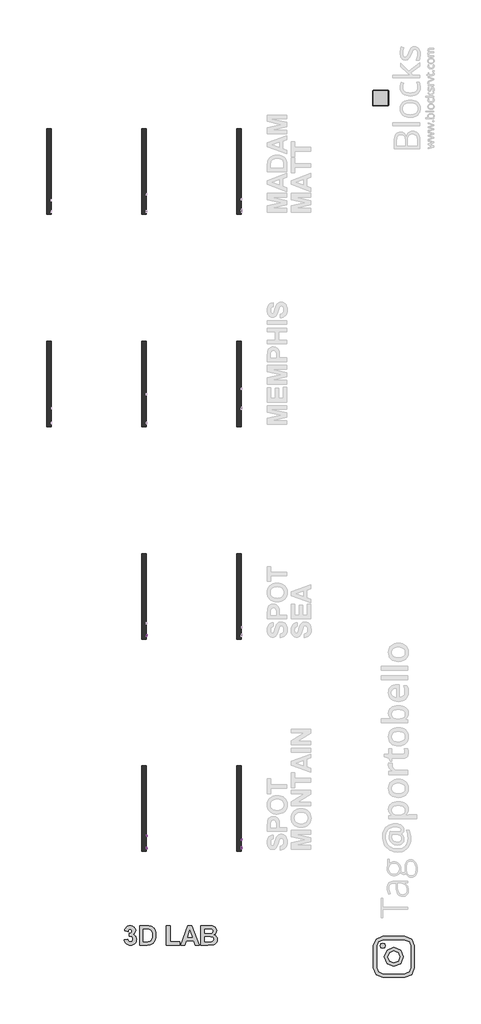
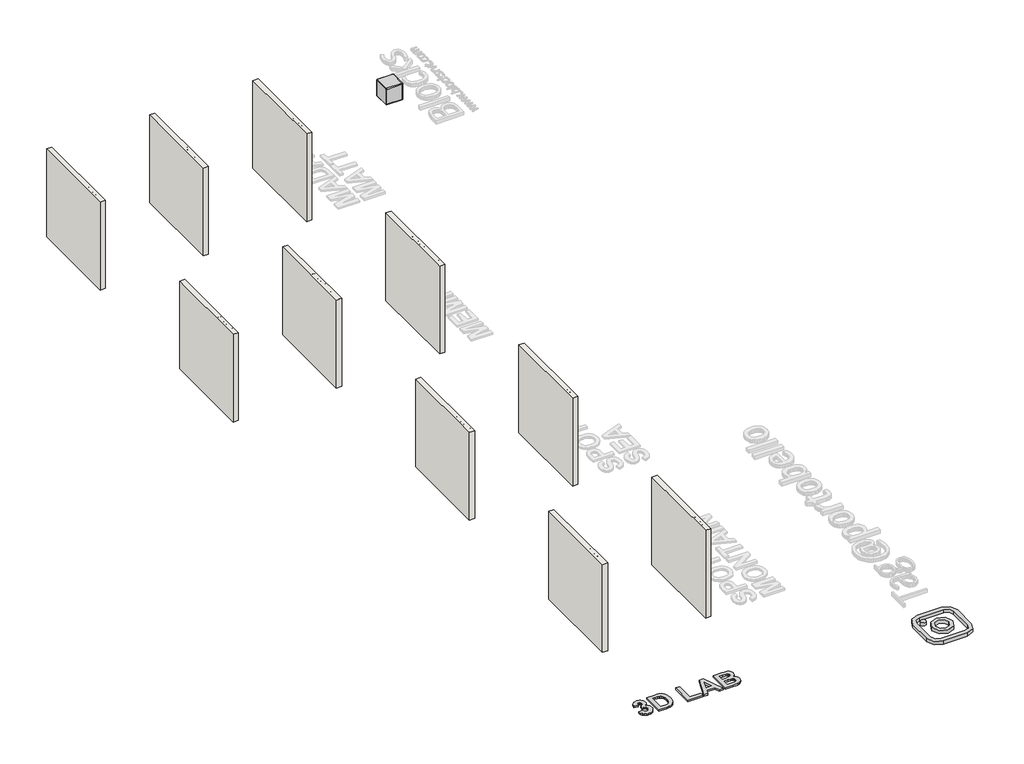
# One storey, part 1 of 7: 10 walls, 7 proxies, 1 furniture element.
"""IFC4 building model written with IfcOpenShell, lengths in millimetres."""

from ifc_helpers import new_model, si_unit, frame, origin, origin_with_axes, place, context, project, spatial, polyline, outline, extrude, transform, mapped, element, save
from components import generic_models_d67f6705, branco_22256ad2

model = new_model("IFC4")

# Units and contexts
model_context = context("Model", 3, world=origin())
ifc_project = project(units=[si_unit("LENGTHUNIT", "METRE", prefix="MILLI")], contexts=[model_context])

# Site, building, storey
site = spatial("IfcSite", under=ifc_project)
building = spatial("IfcBuilding", under=site)
storey = spatial("IfcBuildingStorey", under=building, Name="PORTOBELLO - SHOWROOM", Elevation=0.0)

# Proxies
placement = place(None, origin())
generic_models_shape = generic_models_d67f6705(model_context)
element("IfcBuildingElementProxy", 1, Name="Blks_Instagram1 : Único 2", ObjectType="Blks_Instagram1 : Único 2", at=placement, inside=storey, context=model_context, shape_type="MappedRepresentation", body=[
    mapped(generic_models_shape, transform((45386.5308036, -13051.2061422, 0.0), x_axis=(-1.0, 0.0, 0.0), y_axis=(0.0, -1.0, 0.0), z_axis=(0.0, 0.0, 1.0))),
])
element("IfcBuildingElementProxy", 2, Name="10mm Arial", ObjectType="10mm Arial", at=placement, inside=storey, context=model_context, shape_type="SweptSolid", body=[
    extrude(outline(polyline([(-9575.3888052, 2589.5177386), (-9562.8317665, 2586.2803771), (-9568.6259079, 2571.6478707), (-9577.7187245, 2560.9578331), (-9589.6626266, 2554.4187306), (-9604.0100244, 2552.2390298), (-9618.5750858, 2553.8883674), (-9630.1419088, 2558.8363802), (-9639.0078649, 2566.91139), (-9645.4703253, 2577.9417185), (-9650.7310378, 2604.7971042), (-9649.2441814, 2619.4449389), (-9644.7836122, 2632.0939482), (-9637.5823222, 2642.3425274), (-9627.8733032, 2649.7890722), (-9616.3585968, 2654.3232178), (-9603.7402443, 2655.8345996), (-9589.9722606, 2653.8786937), (-9578.5893786, 2648.0109759), (-9569.9472174, 2638.5931968), (-9564.4013963, 2625.9871071), (-9576.9584351, 2622.9950002), (-9587.2591309, 2638.4337812), (-9604.2307536, 2643.2775609), (-9623.8756522, 2637.9064837), (-9634.9734257, 2623.4855095), (-9638.1739991, 2604.8216296), (-9634.3848145, 2583.1901683), (-9622.5880652, 2569.370068), (-9605.2608232, 2564.7960685), (-9594.7792521, 2566.3534357), (-9586.0451204, 2571.025537), (-9579.4508356, 2578.7633216), (-9575.3888052, 2589.5177386)])), frame((40576.625413, 0.0, 0.0), z_axis=(1.0, 0.0, 0.0), x_axis=(0.0, 1.0, 0.0)), (0.0, 0.0, 1.0), 20.0),
    extrude(outline(polyline([(-9547.135468, 2553.8086596), (-9547.135468, 2627.5812624), (-9536.1480591, 2627.5812624), (-9536.1480591, 2616.6674299), (-9528.3489608, 2626.7228711), (-9520.5008115, 2629.1508922), (-9507.8947218, 2625.2758686), (-9512.0885766, 2614.0186795), (-9520.9177445, 2616.5938535), (-9528.017867, 2614.1167814), (-9532.5428155, 2607.2496508), (-9534.5784292, 2592.5834219), (-9534.5784292, 2553.8086596), (-9547.135468, 2553.8086596)])), frame((40576.625413, 0.0, 0.0), z_axis=(1.0, 0.0, 0.0), x_axis=(0.0, 1.0, 0.0)), (0.0, 0.0, 1.0), 20.0),
    extrude(outline(polyline([(-9452.9576772, 2553.8086596), (-9452.9576772, 2566.4883257), (-9462.7923892, 2555.8013538), (-9475.6192081, 2552.2390298), (-9487.4282202, 2554.7406273), (-9495.570675, 2561.0191467), (-9499.3108086, 2570.2652475), (-9500.0465726, 2581.9393695), (-9500.0465726, 2627.5812624), (-9487.4895338, 2627.5812624), (-9487.4895338, 2587.8500069), (-9486.7292444, 2575.0477135), (-9481.7628375, 2567.530658), (-9472.406372, 2564.7960685), (-9461.9217352, 2567.5919717), (-9454.9932909, 2575.207129), (-9452.9576772, 2589.1989076), (-9452.9576772, 2627.5812624), (-9440.4006385, 2627.5812624), (-9440.4006385, 2553.8086596), (-9452.9576772, 2553.8086596)])), frame((40576.625413, 0.0, 0.0), z_axis=(1.0, 0.0, 0.0), x_axis=(0.0, 1.0, 0.0)), (0.0, 0.0, 1.0), 20.0),
])
element("IfcBuildingElementProxy", 3, Name="10mm Arial", ObjectType="10mm Arial", at=placement, inside=storey, context=model_context, shape_type="SweptSolid", body=[
    extrude(outline(polyline([(-9653.8702975, 2553.8086596), (-9653.8702975, 2566.8316823), (-9602.4894455, 2629.7395034), (-9592.7283099, 2641.707931), (-9647.5917781, 2641.707931), (-9647.5917781, 2654.2649698), (-9576.9584351, 2654.2649698), (-9576.9584351, 2641.707931), (-9633.1953294, 2572.864947), (-9638.4928301, 2566.3656984), (-9575.3888052, 2566.3656984), (-9575.3888052, 2553.8086596), (-9653.8702975, 2553.8086596)])), frame((37576.625413, 0.0, 0.0), z_axis=(1.0, 0.0, 0.0), x_axis=(0.0, 1.0, 0.0)), (0.0, 0.0, 1.0), 20.0),
    extrude(outline(polyline([(37596.625413, -9550.2747277), (37596.625413, -9562.8317665), (37576.625413, -9562.8317665), (37576.625413, -9550.2747277), (37596.625413, -9550.2747277)])), frame((0.0, 0.0, 2553.8086596), z_axis=(0.0, 0.0, 1.0), x_axis=(1.0, 0.0, 0.0)), (0.0, 0.0, 1.0), 73.7726028),
    extrude(outline(polyline([(37596.625413, -9550.2747277), (37596.625413, -9562.8317665), (37576.625413, -9562.8317665), (37576.625413, -9550.2747277), (37596.625413, -9550.2747277)])), frame((0.0, 0.0, 2641.707931), z_axis=(0.0, 0.0, 1.0), x_axis=(1.0, 0.0, 0.0)), (0.0, 0.0, 1.0), 12.5570388),
    extrude(outline(polyline([(-9531.4391695, 2553.8086596), (-9531.4391695, 2627.5812624), (-9518.8821308, 2627.5812624), (-9518.8821308, 2617.2805665), (-9509.2804107, 2626.1833108), (-9496.1715489, 2629.1508922), (-9484.313486, 2626.7596593), (-9476.2200821, 2620.4811399), (-9472.455423, 2611.2473018), (-9471.7932354, 2599.107196), (-9471.7932354, 2553.8086596), (-9484.3502742, 2553.8086596), (-9484.3502742, 2597.4149388), (-9485.7972767, 2608.524975), (-9490.9108364, 2614.3988242), (-9499.5315378, 2616.5938535), (-9513.1554344, 2611.6642347), (-9517.4504567, 2604.5211927), (-9518.8821308, 2592.9513039), (-9518.8821308, 2553.8086596), (-9531.4391695, 2553.8086596)])), frame((37576.625413, 0.0, 0.0), z_axis=(1.0, 0.0, 0.0), x_axis=(0.0, 1.0, 0.0)), (0.0, 0.0, 1.0), 20.0),
    extrude(outline(polyline([(-9407.4384117, 2580.492367), (-9394.8813729, 2578.9227372), (-9398.3823832, 2567.7544529), (-9404.9613396, 2559.3146268), (-9413.9989739, 2554.007929), (-9424.8760183, 2552.2390298), (-9438.2332004, 2554.7069048), (-9448.6779834, 2562.11053), (-9455.4194209, 2574.1249428), (-9457.6665668, 2590.4251809), (-9453.8283313, 2611.28409), (-9442.1296838, 2624.6872574), (-9425.0476965, 2629.1508922), (-9414.4373667, 2627.6180506), (-9405.954621, 2623.0195257), (-9399.8692396, 2615.6005721), (-9396.4510028, 2605.6064445), (-9409.0080415, 2604.0368147), (-9414.8328398, 2613.442331), (-9424.9495947, 2616.5938535), (-9433.0644583, 2615.0426177), (-9439.5054589, 2610.3889105), (-9443.7085107, 2602.3813457), (-9445.109528, 2590.7685374), (-9443.7391676, 2578.9993792), (-9439.6280863, 2570.9642233), (-9433.3035816, 2566.3381072), (-9425.2929512, 2564.7960685), (-9413.4594137, 2568.6465668), (-9407.4384117, 2580.492367)])), frame((37576.625413, 0.0, 0.0), z_axis=(1.0, 0.0, 0.0), x_axis=(0.0, 1.0, 0.0)), (0.0, 0.0, 1.0), 20.0),
    extrude(outline(polyline([(-9387.0332237, 2590.694961), (-9384.3170283, 2608.4820555), (-9376.1684421, 2620.9839119), (-9366.1007382, 2627.1091472), (-9354.0464715, 2629.1508922), (-9340.8548362, 2626.6646231), (-9330.3180828, 2619.2058156), (-9323.4110983, 2607.3630811), (-9321.1087702, 2591.7250306), (-9325.1799976, 2569.3823308), (-9337.0380605, 2556.7394529), (-9354.0464715, 2552.2390298), (-9367.3975222, 2554.7161019), (-9377.9220129, 2562.1473182), (-9384.755421, 2574.2383731), (-9387.0332237, 2590.694961)]), holes=[polyline([(-9374.4761849, 2590.7194865), (-9373.023051, 2579.3549985), (-9368.6636494, 2571.2585289), (-9362.1030872, 2566.4116836), (-9354.0464715, 2564.7960685), (-9346.026644, 2566.4208807), (-9339.4783445, 2571.2953171), (-9335.1189428, 2579.4990856), (-9333.6658089, 2591.1118939), (-9335.1281399, 2602.1452881), (-9339.5151326, 2610.1313931), (-9346.0726292, 2614.9782384), (-9354.0464715, 2616.5938535), (-9362.1030872, 2614.9843697), (-9368.6636494, 2610.1559186), (-9373.023051, 2602.0778431), (-9374.4761849, 2590.7194865)])]), frame((37576.625413, 0.0, 0.0), z_axis=(1.0, 0.0, 0.0), x_axis=(0.0, 1.0, 0.0)), (0.0, 0.0, 1.0), 20.0),
])
element("IfcBuildingElementProxy", 4, Name="10mm Arial", ObjectType="10mm Arial", at=placement, inside=storey, context=model_context, shape_type="SweptSolid", body=[
    extrude(outline(polyline([(-2953.8702975, 2553.8086596), (-2953.8702975, 2566.8316823), (-2902.4894455, 2629.7395034), (-2892.7283099, 2641.707931), (-2947.5917781, 2641.707931), (-2947.5917781, 2654.2649698), (-2876.9584351, 2654.2649698), (-2876.9584351, 2641.707931), (-2933.1953294, 2572.864947), (-2938.4928301, 2566.3656984), (-2875.3888052, 2566.3656984), (-2875.3888052, 2553.8086596), (-2953.8702975, 2553.8086596)])), frame((37576.625413, 0.0, 0.0), z_axis=(1.0, 0.0, 0.0), x_axis=(0.0, 1.0, 0.0)), (0.0, 0.0, 1.0), 20.0),
    extrude(outline(polyline([(37596.625413, -2850.2747277), (37596.625413, -2862.8317665), (37576.625413, -2862.8317665), (37576.625413, -2850.2747277), (37596.625413, -2850.2747277)])), frame((0.0, 0.0, 2553.8086596), z_axis=(0.0, 0.0, 1.0), x_axis=(1.0, 0.0, 0.0)), (0.0, 0.0, 1.0), 73.7726028),
    extrude(outline(polyline([(37596.625413, -2850.2747277), (37596.625413, -2862.8317665), (37576.625413, -2862.8317665), (37576.625413, -2850.2747277), (37596.625413, -2850.2747277)])), frame((0.0, 0.0, 2641.707931), z_axis=(0.0, 0.0, 1.0), x_axis=(1.0, 0.0, 0.0)), (0.0, 0.0, 1.0), 12.5570388),
    extrude(outline(polyline([(-2831.4391695, 2553.8086596), (-2831.4391695, 2627.5812624), (-2818.8821308, 2627.5812624), (-2818.8821308, 2617.2805665), (-2809.2804107, 2626.1833108), (-2796.1715489, 2629.1508922), (-2784.313486, 2626.7596593), (-2776.2200821, 2620.4811399), (-2772.455423, 2611.2473018), (-2771.7932354, 2599.107196), (-2771.7932354, 2553.8086596), (-2784.3502742, 2553.8086596), (-2784.3502742, 2597.4149388), (-2785.7972767, 2608.524975), (-2790.9108364, 2614.3988242), (-2799.5315378, 2616.5938535), (-2813.1554344, 2611.6642347), (-2817.4504567, 2604.5211927), (-2818.8821308, 2592.9513039), (-2818.8821308, 2553.8086596), (-2831.4391695, 2553.8086596)])), frame((37576.625413, 0.0, 0.0), z_axis=(1.0, 0.0, 0.0), x_axis=(0.0, 1.0, 0.0)), (0.0, 0.0, 1.0), 20.0),
    extrude(outline(polyline([(-2707.4384117, 2580.492367), (-2694.8813729, 2578.9227372), (-2698.3823832, 2567.7544529), (-2704.9613396, 2559.3146268), (-2713.9989739, 2554.007929), (-2724.8760183, 2552.2390298), (-2738.2332004, 2554.7069048), (-2748.6779834, 2562.11053), (-2755.4194209, 2574.1249428), (-2757.6665668, 2590.4251809), (-2753.8283313, 2611.28409), (-2742.1296838, 2624.6872574), (-2725.0476965, 2629.1508922), (-2714.4373667, 2627.6180506), (-2705.954621, 2623.0195257), (-2699.8692396, 2615.6005721), (-2696.4510028, 2605.6064445), (-2709.0080415, 2604.0368147), (-2714.8328398, 2613.442331), (-2724.9495947, 2616.5938535), (-2733.0644583, 2615.0426177), (-2739.5054589, 2610.3889105), (-2743.7085107, 2602.3813457), (-2745.109528, 2590.7685374), (-2743.7391676, 2578.9993792), (-2739.6280863, 2570.9642233), (-2733.3035816, 2566.3381072), (-2725.2929512, 2564.7960685), (-2713.4594137, 2568.6465668), (-2707.4384117, 2580.492367)])), frame((37576.625413, 0.0, 0.0), z_axis=(1.0, 0.0, 0.0), x_axis=(0.0, 1.0, 0.0)), (0.0, 0.0, 1.0), 20.0),
    extrude(outline(polyline([(-2687.0332237, 2590.694961), (-2684.3170283, 2608.4820555), (-2676.1684421, 2620.9839119), (-2666.1007382, 2627.1091472), (-2654.0464715, 2629.1508922), (-2640.8548362, 2626.6646231), (-2630.3180828, 2619.2058156), (-2623.4110983, 2607.3630811), (-2621.1087702, 2591.7250306), (-2625.1799976, 2569.3823308), (-2637.0380605, 2556.7394529), (-2654.0464715, 2552.2390298), (-2667.3975222, 2554.7161019), (-2677.9220129, 2562.1473182), (-2684.755421, 2574.2383731), (-2687.0332237, 2590.694961)]), holes=[polyline([(-2674.4761849, 2590.7194865), (-2673.023051, 2579.3549985), (-2668.6636494, 2571.2585289), (-2662.1030872, 2566.4116836), (-2654.0464715, 2564.7960685), (-2646.026644, 2566.4208807), (-2639.4783445, 2571.2953171), (-2635.1189428, 2579.4990856), (-2633.6658089, 2591.1118939), (-2635.1281399, 2602.1452881), (-2639.5151326, 2610.1313931), (-2646.0726292, 2614.9782384), (-2654.0464715, 2616.5938535), (-2662.1030872, 2614.9843697), (-2668.6636494, 2610.1559186), (-2673.023051, 2602.0778431), (-2674.4761849, 2590.7194865)])]), frame((37576.625413, 0.0, 0.0), z_axis=(1.0, 0.0, 0.0), x_axis=(0.0, 1.0, 0.0)), (0.0, 0.0, 1.0), 20.0),
])
element("IfcBuildingElementProxy", 5, Name="10mm Arial Narrow", ObjectType="10mm Arial Narrow", at=placement, inside=storey, context=model_context, shape_type="SweptSolid", body=[
    extrude(outline(polyline([(-9383.7082487, 2553.8086596), (-9383.7082487, 2654.5272634), (-9352.411364, 2654.5272634), (-9336.1156625, 2652.6489426), (-9324.6426764, 2643.1684995), (-9320.3529979, 2626.1493906), (-9322.1393063, 2614.0735651), (-9327.4982315, 2604.4471713), (-9337.2420203, 2598.1459129), (-9352.1829196, 2596.0454935), (-9373.961287, 2596.0454935), (-9373.961287, 2553.8086596), (-9383.7082487, 2553.8086596)]), holes=[polyline([(-9373.961287, 2607.4169487), (-9350.9899321, 2607.4169487), (-9335.1257367, 2611.9477629), (-9330.0999596, 2625.6163537), (-9332.5747741, 2635.7821301), (-9338.5524029, 2641.5820799), (-9351.2183765, 2643.1558081), (-9373.961287, 2643.1558081), (-9373.961287, 2607.4169487)])]), frame((40576.625413, 0.0, 0.0), z_axis=(1.0, 0.0, 0.0), x_axis=(0.0, 1.0, 0.0)), (0.0, 0.0, 1.0), 20.0),
    extrude(outline(polyline([(-9312.2305299, 2590.3597658), (-9310.276061, 2606.9505414), (-9304.4126544, 2618.9026262), (-9295.5540877, 2626.1271808), (-9284.6141385, 2628.5353656), (-9273.8011029, 2626.1271808), (-9264.9171535, 2618.9026262), (-9258.9775988, 2607.1409117), (-9256.9977472, 2591.1212472), (-9258.9426975, 2573.9593606), (-9264.7775486, 2561.8169055), (-9273.6265968, 2554.5923509), (-9284.6141385, 2552.184166), (-9295.4747667, 2554.5986966), (-9304.3491976, 2561.8422882), (-9310.2601968, 2573.8007187), (-9312.2305299, 2590.3597658)]), holes=[polyline([(-9302.4835682, 2590.3851485), (-9301.1795314, 2577.8333971), (-9297.2674208, 2568.9621391), (-9291.426224, 2563.6888805), (-9284.3349287, 2561.9311277), (-9277.6148555, 2563.7047447), (-9271.9227822, 2569.0255959), (-9268.0392272, 2577.9127181), (-9266.7447088, 2590.3851485), (-9268.0487457, 2602.8988259), (-9271.9608563, 2611.7573926), (-9277.802053, 2617.0306511), (-9284.8933484, 2618.788404), (-9291.6610141, 2617.0211326), (-9297.3435689, 2611.7193185), (-9301.1985684, 2602.8512333), (-9302.4835682, 2590.3851485)])]), frame((40576.625413, 0.0, 0.0), z_axis=(1.0, 0.0, 0.0), x_axis=(0.0, 1.0, 0.0)), (0.0, 0.0, 1.0), 20.0),
    extrude(outline(polyline([(-9185.5200284, 2561.9311277), (-9183.8955348, 2552.184166), (-9191.2565214, 2552.184166), (-9199.5312858, 2554.3036225), (-9203.8463469, 2560.1035724), (-9205.0139517, 2574.7493976), (-9205.0139517, 2617.1639104), (-9213.1364197, 2617.1639104), (-9213.1364197, 2620.4128976), (-9214.7609133, 2615.5394168), (-9222.3249617, 2617.1639104), (-9228.4041214, 2614.8413922), (-9232.2749851, 2608.3561091), (-9234.2548366, 2592.9488025), (-9234.2548366, 2553.8086596), (-9244.0017983, 2553.8086596), (-9244.0017983, 2626.910872), (-9234.2548366, 2626.910872), (-9234.2548366, 2617.2146758), (-9228.0106893, 2626.3016869), (-9221.6142458, 2628.5353656), (-9213.1364197, 2626.910872), (-9205.0139517, 2626.910872), (-9205.0139517, 2643.1558081), (-9195.26699, 2651.2782762), (-9195.26699, 2626.910872), (-9185.5200284, 2626.910872), (-9185.5200284, 2617.1639104), (-9195.26699, 2617.1639104), (-9195.26699, 2572.5157188), (-9194.4039778, 2564.5201644), (-9189.7843241, 2561.9311277), (-9185.5200284, 2561.9311277)])), frame((40576.625413, 0.0, 0.0), z_axis=(1.0, 0.0, 0.0), x_axis=(0.0, 1.0, 0.0)), (0.0, 0.0, 1.0), 20.0),
    extrude(outline(polyline([(-9179.0220539, 2590.3597658), (-9177.0675851, 2606.9505414), (-9171.2041785, 2618.9026262), (-9162.3456117, 2626.1271808), (-9151.4056626, 2628.5353656), (-9140.592627, 2626.1271808), (-9131.7086776, 2618.9026262), (-9125.7691228, 2607.1409117), (-9123.7892712, 2591.1212472), (-9125.7342216, 2573.9593606), (-9131.5690727, 2561.8169055), (-9140.4181209, 2554.5923509), (-9151.4056626, 2552.184166), (-9162.2662908, 2554.5986966), (-9171.1407217, 2561.8422882), (-9177.0517209, 2573.8007187), (-9179.0220539, 2590.3597658)]), holes=[polyline([(-9169.2750923, 2590.3851485), (-9167.9710554, 2577.8333971), (-9164.0589448, 2568.9621391), (-9158.2177481, 2563.6888805), (-9151.1264528, 2561.9311277), (-9144.4063796, 2563.7047447), (-9138.7143063, 2569.0255959), (-9134.8307512, 2577.9127181), (-9133.5362329, 2590.3851485), (-9134.8402698, 2602.8988259), (-9138.7523803, 2611.7573926), (-9144.5935771, 2617.0306511), (-9151.6848724, 2618.788404), (-9158.4525382, 2617.0211326), (-9164.135093, 2611.7193185), (-9167.9900925, 2602.8512333), (-9169.2750923, 2590.3851485)])]), frame((40576.625413, 0.0, 0.0), z_axis=(1.0, 0.0, 0.0), x_axis=(0.0, 1.0, 0.0)), (0.0, 0.0, 1.0), 20.0),
    extrude(outline(polyline([(-9101.0463607, 2553.8086596), (-9110.7933224, 2553.8086596), (-9110.7933224, 2654.5272634), (-9101.0463607, 2654.5272634), (-9101.0463607, 2619.1183792), (-9093.6473, 2626.2001561), (-9084.4460667, 2628.5353656), (-9071.56434, 2624.3345267), (-9062.2869585, 2611.6050963), (-9058.8095269, 2590.9181855), (-9060.7417859, 2574.463842), (-9066.5385629, 2562.2611029), (-9074.9116852, 2554.7034002), (-9084.5729802, 2552.184166), (-9093.9138185, 2554.7985854), (-9101.0463607, 2562.5656955), (-9101.0463607, 2553.8086596)]), holes=[polyline([(-9101.0463607, 2590.9181855), (-9098.9649783, 2573.6706323), (-9093.0761889, 2564.9389791), (-9084.6237456, 2561.9311277), (-9078.681018, 2563.7206089), (-9073.4426607, 2569.0890526), (-9068.5564885, 2590.5120621), (-9073.2649817, 2611.9477629), (-9078.5096847, 2617.0782437), (-9084.8268073, 2618.788404), (-9090.8044362, 2616.9989227), (-9096.0967318, 2611.630479), (-9101.0463607, 2590.9181855)])]), frame((40576.625413, 0.0, 0.0), z_axis=(1.0, 0.0, 0.0), x_axis=(0.0, 1.0, 0.0)), (0.0, 0.0, 1.0), 20.0),
    extrude(outline(polyline([(-9006.8257314, 2576.5515701), (-8997.0787697, 2574.9270765), (-9000.7783001, 2565.04051), (-9006.597287, 2557.9206591), (-9014.3009403, 2553.6182893), (-9023.6544699, 2552.184166), (-9035.2480239, 2554.5986966), (-9044.3921461, 2561.8422882), (-9050.3317009, 2573.6484224), (-9052.3115525, 2589.7505807), (-9050.3221823, 2606.4175044), (-9044.354072, 2618.5980336), (-9035.3400362, 2626.0510326), (-9024.2128896, 2628.5353656), (-9013.5299404, 2626.1366993), (-9004.782423, 2618.9407003), (-8998.947572, 2607.2011957), (-8997.0026216, 2591.1720126), (-8997.0787697, 2587.9230254), (-9042.5645908, 2587.9230254), (-9036.5615793, 2568.4798675), (-9030.631543, 2563.5683126), (-9023.5275563, 2561.9311277), (-9013.3490885, 2565.5862383), (-9006.8257314, 2576.5515701)]), holes=[polyline([(-9041.9046403, 2597.6699871), (-9006.8257314, 2597.6699871), (-9011.0900271, 2611.9350716), (-9016.9153597, 2617.0750709), (-9024.1367414, 2618.788404), (-9036.3458262, 2613.0772936), (-9041.9046403, 2597.6699871)])]), frame((40576.625413, 0.0, 0.0), z_axis=(1.0, 0.0, 0.0), x_axis=(0.0, 1.0, 0.0)), (0.0, 0.0, 1.0), 20.0),
    extrude(outline(polyline([(40596.625413, -8974.3358592), (40596.625413, -8984.0828209), (40576.625413, -8984.0828209), (40576.625413, -8974.3358592), (40596.625413, -8974.3358592)])), frame((0.0, 0.0, 2553.8086596), z_axis=(0.0, 0.0, 1.0), x_axis=(1.0, 0.0, 0.0)), (0.0, 0.0, 1.0), 100.7186038),
    extrude(outline(polyline([(40596.625413, -8948.3439615), (40596.625413, -8958.0909231), (40576.625413, -8958.0909231), (40576.625413, -8948.3439615), (40596.625413, -8948.3439615)])), frame((0.0, 0.0, 2553.8086596), z_axis=(0.0, 0.0, 1.0), x_axis=(1.0, 0.0, 0.0)), (0.0, 0.0, 1.0), 100.7186038),
    extrude(outline(polyline([(-8936.9725062, 2590.3597658), (-8935.0180373, 2606.9505414), (-8929.1546307, 2618.9026262), (-8920.296064, 2626.1271808), (-8909.3561149, 2628.5353656), (-8898.5430793, 2626.1271808), (-8889.6591299, 2618.9026262), (-8883.7195751, 2607.1409117), (-8881.7397235, 2591.1212472), (-8883.6846739, 2573.9593606), (-8889.5195249, 2561.8169055), (-8898.3685731, 2554.5923509), (-8909.3561149, 2552.184166), (-8920.216743, 2554.5986966), (-8929.0911739, 2561.8422882), (-8935.0021731, 2573.8007187), (-8936.9725062, 2590.3597658)]), holes=[polyline([(-8927.2255446, 2590.3851485), (-8925.9215077, 2577.8333971), (-8922.0093971, 2568.9621391), (-8916.1682004, 2563.6888805), (-8909.076905, 2561.9311277), (-8902.3568319, 2563.7047447), (-8896.6647585, 2569.0255959), (-8892.7812035, 2577.9127181), (-8891.4866852, 2590.3851485), (-8892.790722, 2602.8988259), (-8896.7028326, 2611.7573926), (-8902.5440294, 2617.0306511), (-8909.6353247, 2618.788404), (-8916.4029905, 2617.0211326), (-8922.0855453, 2611.7193185), (-8925.9405447, 2602.8512333), (-8927.2255446, 2590.3851485)])]), frame((40576.625413, 0.0, 0.0), z_axis=(1.0, 0.0, 0.0), x_axis=(0.0, 1.0, 0.0)), (0.0, 0.0, 1.0), 20.0),
])
element("IfcBuildingElementProxy", 6, Name="10mm Arial Narrow", ObjectType="10mm Arial Narrow", at=placement, inside=storey, context=model_context, shape_type="SweptSolid", body=[
    extrude(outline(polyline([(-9263.7082487, 2553.8086596), (-9263.7082487, 2654.5272634), (-9232.411364, 2654.5272634), (-9216.1156625, 2652.6489426), (-9204.6426764, 2643.1684995), (-9200.3529979, 2626.1493906), (-9202.1393063, 2614.0735651), (-9207.4982315, 2604.4471713), (-9217.2420203, 2598.1459129), (-9232.1829196, 2596.0454935), (-9253.961287, 2596.0454935), (-9253.961287, 2553.8086596), (-9263.7082487, 2553.8086596)]), holes=[polyline([(-9253.961287, 2607.4169487), (-9230.9899321, 2607.4169487), (-9215.1257367, 2611.9477629), (-9210.0999596, 2625.6163537), (-9212.5747741, 2635.7821301), (-9218.5524029, 2641.5820799), (-9231.2183765, 2643.1558081), (-9253.961287, 2643.1558081), (-9253.961287, 2607.4169487)])]), frame((37576.625413, 0.0, 0.0), z_axis=(1.0, 0.0, 0.0), x_axis=(0.0, 1.0, 0.0)), (0.0, 0.0, 1.0), 20.0),
    extrude(outline(polyline([(-9192.2305299, 2590.3597658), (-9190.276061, 2606.9505414), (-9184.4126544, 2618.9026262), (-9175.5540877, 2626.1271808), (-9164.6141385, 2628.5353656), (-9153.8011029, 2626.1271808), (-9144.9171535, 2618.9026262), (-9138.9775988, 2607.1409117), (-9136.9977472, 2591.1212472), (-9138.9426975, 2573.9593606), (-9144.7775486, 2561.8169055), (-9153.6265968, 2554.5923509), (-9164.6141385, 2552.184166), (-9175.4747667, 2554.5986966), (-9184.3491976, 2561.8422882), (-9190.2601968, 2573.8007187), (-9192.2305299, 2590.3597658)]), holes=[polyline([(-9182.4835682, 2590.3851485), (-9181.1795314, 2577.8333971), (-9177.2674208, 2568.9621391), (-9171.426224, 2563.6888805), (-9164.3349287, 2561.9311277), (-9157.6148555, 2563.7047447), (-9151.9227822, 2569.0255959), (-9148.0392272, 2577.9127181), (-9146.7447088, 2590.3851485), (-9148.0487457, 2602.8988259), (-9151.9608563, 2611.7573926), (-9157.802053, 2617.0306511), (-9164.8933484, 2618.788404), (-9171.6610141, 2617.0211326), (-9177.3435689, 2611.7193185), (-9181.1985684, 2602.8512333), (-9182.4835682, 2590.3851485)])]), frame((37576.625413, 0.0, 0.0), z_axis=(1.0, 0.0, 0.0), x_axis=(0.0, 1.0, 0.0)), (0.0, 0.0, 1.0), 20.0),
    extrude(outline(polyline([(-9065.5200284, 2561.9311277), (-9063.8955348, 2552.184166), (-9071.2565214, 2552.184166), (-9079.5312858, 2554.3036225), (-9083.8463469, 2560.1035724), (-9085.0139517, 2574.7493976), (-9085.0139517, 2617.1639104), (-9093.1364197, 2617.1639104), (-9093.1364197, 2620.4128976), (-9094.7609133, 2615.5394168), (-9102.3249617, 2617.1639104), (-9108.4041214, 2614.8413922), (-9112.2749851, 2608.3561091), (-9114.2548366, 2592.9488025), (-9114.2548366, 2553.8086596), (-9124.0017983, 2553.8086596), (-9124.0017983, 2626.910872), (-9114.2548366, 2626.910872), (-9114.2548366, 2617.2146758), (-9108.0106893, 2626.3016869), (-9101.6142458, 2628.5353656), (-9093.1364197, 2626.910872), (-9085.0139517, 2626.910872), (-9085.0139517, 2643.1558081), (-9075.26699, 2651.2782762), (-9075.26699, 2626.910872), (-9065.5200284, 2626.910872), (-9065.5200284, 2617.1639104), (-9075.26699, 2617.1639104), (-9075.26699, 2572.5157188), (-9074.4039778, 2564.5201644), (-9069.7843241, 2561.9311277), (-9065.5200284, 2561.9311277)])), frame((37576.625413, 0.0, 0.0), z_axis=(1.0, 0.0, 0.0), x_axis=(0.0, 1.0, 0.0)), (0.0, 0.0, 1.0), 20.0),
    extrude(outline(polyline([(-9059.0220539, 2590.3597658), (-9057.0675851, 2606.9505414), (-9051.2041785, 2618.9026262), (-9042.3456117, 2626.1271808), (-9031.4056626, 2628.5353656), (-9020.592627, 2626.1271808), (-9011.7086776, 2618.9026262), (-9005.7691228, 2607.1409117), (-9003.7892712, 2591.1212472), (-9005.7342216, 2573.9593606), (-9011.5690727, 2561.8169055), (-9020.4181209, 2554.5923509), (-9031.4056626, 2552.184166), (-9042.2662908, 2554.5986966), (-9051.1407217, 2561.8422882), (-9057.0517209, 2573.8007187), (-9059.0220539, 2590.3597658)]), holes=[polyline([(-9049.2750923, 2590.3851485), (-9047.9710554, 2577.8333971), (-9044.0589448, 2568.9621391), (-9038.2177481, 2563.6888805), (-9031.1264528, 2561.9311277), (-9024.4063796, 2563.7047447), (-9018.7143063, 2569.0255959), (-9014.8307512, 2577.9127181), (-9013.5362329, 2590.3851485), (-9014.8402698, 2602.8988259), (-9018.7523803, 2611.7573926), (-9024.5935771, 2617.0306511), (-9031.6848724, 2618.788404), (-9038.4525382, 2617.0211326), (-9044.135093, 2611.7193185), (-9047.9900925, 2602.8512333), (-9049.2750923, 2590.3851485)])]), frame((37576.625413, 0.0, 0.0), z_axis=(1.0, 0.0, 0.0), x_axis=(0.0, 1.0, 0.0)), (0.0, 0.0, 1.0), 20.0),
    extrude(outline(polyline([(-8981.0463607, 2553.8086596), (-8990.7933224, 2553.8086596), (-8990.7933224, 2654.5272634), (-8981.0463607, 2654.5272634), (-8981.0463607, 2619.1183792), (-8973.6473, 2626.2001561), (-8964.4460667, 2628.5353656), (-8951.56434, 2624.3345267), (-8942.2869585, 2611.6050963), (-8938.8095269, 2590.9181855), (-8940.7417859, 2574.463842), (-8946.5385629, 2562.2611029), (-8954.9116852, 2554.7034002), (-8964.5729802, 2552.184166), (-8973.9138185, 2554.7985854), (-8981.0463607, 2562.5656955), (-8981.0463607, 2553.8086596)]), holes=[polyline([(-8981.0463607, 2590.9181855), (-8978.9649783, 2573.6706323), (-8973.0761889, 2564.9389791), (-8964.6237456, 2561.9311277), (-8958.681018, 2563.7206089), (-8953.4426607, 2569.0890526), (-8948.5564885, 2590.5120621), (-8953.2649817, 2611.9477629), (-8958.5096847, 2617.0782437), (-8964.8268073, 2618.788404), (-8970.8044362, 2616.9989227), (-8976.0967318, 2611.630479), (-8981.0463607, 2590.9181855)])]), frame((37576.625413, 0.0, 0.0), z_axis=(1.0, 0.0, 0.0), x_axis=(0.0, 1.0, 0.0)), (0.0, 0.0, 1.0), 20.0),
    extrude(outline(polyline([(-8886.8257314, 2576.5515701), (-8877.0787697, 2574.9270765), (-8880.7783001, 2565.04051), (-8886.597287, 2557.9206591), (-8894.3009403, 2553.6182893), (-8903.6544699, 2552.184166), (-8915.2480239, 2554.5986966), (-8924.3921461, 2561.8422882), (-8930.3317009, 2573.6484224), (-8932.3115525, 2589.7505807), (-8930.3221823, 2606.4175044), (-8924.354072, 2618.5980336), (-8915.3400362, 2626.0510326), (-8904.2128896, 2628.5353656), (-8893.5299404, 2626.1366993), (-8884.782423, 2618.9407003), (-8878.947572, 2607.2011957), (-8877.0026216, 2591.1720126), (-8877.0787697, 2587.9230254), (-8922.5645908, 2587.9230254), (-8916.5615793, 2568.4798675), (-8910.631543, 2563.5683126), (-8903.5275563, 2561.9311277), (-8893.3490885, 2565.5862383), (-8886.8257314, 2576.5515701)]), holes=[polyline([(-8921.9046403, 2597.6699871), (-8886.8257314, 2597.6699871), (-8891.0900271, 2611.9350716), (-8896.9153597, 2617.0750709), (-8904.1367414, 2618.788404), (-8916.3458262, 2613.0772936), (-8921.9046403, 2597.6699871)])]), frame((37576.625413, 0.0, 0.0), z_axis=(1.0, 0.0, 0.0), x_axis=(0.0, 1.0, 0.0)), (0.0, 0.0, 1.0), 20.0),
    extrude(outline(polyline([(37596.625413, -8854.3358592), (37596.625413, -8864.0828209), (37576.625413, -8864.0828209), (37576.625413, -8854.3358592), (37596.625413, -8854.3358592)])), frame((0.0, 0.0, 2553.8086596), z_axis=(0.0, 0.0, 1.0), x_axis=(1.0, 0.0, 0.0)), (0.0, 0.0, 1.0), 100.7186038),
    extrude(outline(polyline([(37596.625413, -8828.3439615), (37596.625413, -8838.0909231), (37576.625413, -8838.0909231), (37576.625413, -8828.3439615), (37596.625413, -8828.3439615)])), frame((0.0, 0.0, 2553.8086596), z_axis=(0.0, 0.0, 1.0), x_axis=(1.0, 0.0, 0.0)), (0.0, 0.0, 1.0), 100.7186038),
    extrude(outline(polyline([(-8816.9725062, 2590.3597658), (-8815.0180373, 2606.9505414), (-8809.1546307, 2618.9026262), (-8800.296064, 2626.1271808), (-8789.3561149, 2628.5353656), (-8778.5430793, 2626.1271808), (-8769.6591299, 2618.9026262), (-8763.7195751, 2607.1409117), (-8761.7397235, 2591.1212472), (-8763.6846739, 2573.9593606), (-8769.5195249, 2561.8169055), (-8778.3685731, 2554.5923509), (-8789.3561149, 2552.184166), (-8800.216743, 2554.5986966), (-8809.0911739, 2561.8422882), (-8815.0021731, 2573.8007187), (-8816.9725062, 2590.3597658)]), holes=[polyline([(-8807.2255446, 2590.3851485), (-8805.9215077, 2577.8333971), (-8802.0093971, 2568.9621391), (-8796.1682004, 2563.6888805), (-8789.076905, 2561.9311277), (-8782.3568319, 2563.7047447), (-8776.6647585, 2569.0255959), (-8772.7812035, 2577.9127181), (-8771.4866852, 2590.3851485), (-8772.790722, 2602.8988259), (-8776.7028326, 2611.7573926), (-8782.5440294, 2617.0306511), (-8789.6353247, 2618.788404), (-8796.4029905, 2617.0211326), (-8802.0855453, 2611.7193185), (-8805.9405447, 2602.8512333), (-8807.2255446, 2590.3851485)])]), frame((37576.625413, 0.0, 0.0), z_axis=(1.0, 0.0, 0.0), x_axis=(0.0, 1.0, 0.0)), (0.0, 0.0, 1.0), 20.0),
])
element("IfcBuildingElementProxy", 7, Name="600mm Arial", ObjectType="600mm Arial", at=placement, inside=storey, context=model_context, shape_type="SweptSolid", body=[
    extrude(outline(polyline([(36877.6157239, -12507.8775115), (36994.2167982, -12494.3651474), (37003.2123889, -12531.8657533), (37020.4824048, -12559.3459544), (37044.1290419, -12576.1984534), (37072.2544963, -12581.8159531), (37087.99678, -12580.2075643), (37102.429579, -12575.3823977), (37115.5528933, -12567.3404535), (37127.3667228, -12556.0817316), (37137.1309241, -12542.0996611), (37144.1053536, -12525.8876709), (37149.6848972, -12486.7739316), (37144.5798046, -12449.7667547), (37138.1984388, -12434.479944), (37129.2645268, -12421.3376516), (37106.5857697, -12403.232602), (37093.5526011, -12398.7063396), (37079.3902392, -12397.1975855), (37058.0968789, -12399.361082), (37033.0838229, -12405.8515715), (37043.2560521, -12309.7467798), (37076.448643, -12305.5716111), (37089.7000591, -12299.4417044), (37100.7215555, -12290.616916), (37115.5813604, -12266.9323228), (37120.5346286, -12236.5674597), (37116.833911, -12210.7763041), (37105.7317579, -12190.7924286), (37088.48072, -12177.982252), (37066.333348, -12173.7121931), (37043.8064152, -12178.6654614), (37024.8093977, -12193.5252663), (37010.974407, -12217.912047), (37003.9335544, -12251.4462426), (36887.3324801, -12233.9864464), (36900.6740418, -12181.815816), (36919.4433228, -12141.2977018), (36945.1775443, -12110.3065634), (36979.4139274, -12086.7168604), (37020.1977342, -12071.8001214), (37065.5742264, -12066.827875), (37104.3843171, -12070.2723892), (37139.1331073, -12080.6059317), (37169.8205971, -12097.8285024), (37196.4467864, -12121.9401015), (37214.2481874, -12145.2261559), (37226.9634738, -12169.9924974), (37234.5926456, -12196.2391259), (37237.1357029, -12223.9660415), (37231.6795166, -12262.2352581), (37215.3109576, -12296.4241961), (37188.0300259, -12326.5328557), (37149.8367215, -12352.5612367), (37175.0016018, -12359.9009935), (37197.5095566, -12370.6852644), (37217.3605858, -12384.9140495), (37234.5546896, -12402.5873487), (37248.4371254, -12423.0029746), (37258.353151, -12445.4587398), (37264.3027664, -12469.9546442), (37266.2859715, -12496.4906878), (37262.7702897, -12534.8785171), (37252.2232443, -12570.3342392), (37234.6448353, -12602.8578543), (37210.0350626, -12632.4493623), (37180.1873511, -12657.0591349), (37146.8951254, -12674.637544), (37110.1583856, -12685.1845894), (37069.9771316, -12688.7002712), (37031.9688631, -12685.5736392), (36997.3481747, -12676.1937432), (36966.1150663, -12660.5605832), (36938.2695379, -12638.6741592), (36914.8648708, -12611.7395768), (36896.9543461, -12580.9619413), (36884.5379638, -12546.3412529), (36877.6157239, -12507.8775115)])), origin_with_axes(), (0.0, 0.0, 1.0), 50.0),
    extrude(outline(polyline([(37363.4535334, -12066.827875), (37590.1272364, -12066.827875), (37657.6890568, -12069.7504931), (37707.0319593, -12078.5183473), (37733.0888074, -12088.0216006), (37757.2098956, -12100.5898072), (37779.3952237, -12116.2229672), (37799.6447917, -12134.9210805), (37817.7735639, -12156.2903529), (37833.5965043, -12179.9369901), (37858.3248897, -12234.0623585), (37867.1259555, -12265.1151755), (37873.412431, -12299.5935287), (37878.4416115, -12378.8268433), (37873.7350577, -12449.1215014), (37859.6153964, -12509.092106), (37846.8431758, -12540.8993001), (37831.6038101, -12569.5181835), (37813.8972994, -12594.9487564), (37793.7236434, -12617.1910186), (37755.8434767, -12645.0507805), (37706.5764864, -12666.0784482), (37658.6379587, -12675.7572483), (37596.8075063, -12678.983515), (37363.4535334, -12678.983515), (37363.4535334, -12066.827875)]), holes=[polyline([(37480.0546077, -12173.7121931), (37480.0546077, -12572.0991969), (37579.34771, -12572.0991969), (37627.3241937, -12570.6568659), (37659.8145972, -12566.3298729), (37689.4013607, -12556.4423144), (37713.4844927, -12541.354773), (37732.861071, -12517.9928065), (37748.3281731, -12483.2819724), (37758.4624462, -12435.5332251), (37761.8405372, -12373.0575193), (37758.4624462, -12311.4548033), (37748.3281731, -12266.0213769), (37732.1399055, -12232.7718518), (37710.5998307, -12207.7208398), (37683.1006516, -12190.1851313), (37649.0350708, -12179.4815171), (37607.7768131, -12175.1545241), (37539.873388, -12173.7121931), (37480.0546077, -12173.7121931)])]), origin_with_axes(), (0.0, 0.0, 1.0), 50.0),
    extrude(outline(polyline([(38208.8113219, -12678.983515), (38208.8113219, -12066.827875), (38325.4123962, -12066.827875), (38325.4123962, -12572.0991969), (38636.3485943, -12572.0991969), (38636.3485943, -12678.983515), (38208.8113219, -12678.983515)])), origin_with_axes(), (0.0, 0.0, 1.0), 50.0),
    extrude(outline(polyline([(39238.7874781, -12678.983515), (39116.2652555, -12678.983515), (39068.2887718, -12542.9489283), (38837.0603393, -12542.9489283), (38789.6911529, -12678.983515), (38665.4988629, -12678.983515), (38888.9842552, -12066.827875), (39013.1765453, -12066.827875), (39238.7874781, -12678.983515)]), holes=[polyline([(39030.9399902, -12436.0646103), (38952.1431705, -12212.5792179), (38874.409121, -12436.0646103), (39030.9399902, -12436.0646103)])]), origin_with_axes(), (0.0, 0.0, 1.0), 50.0),
    extrude(outline(polyline([(39297.0880152, -12066.827875), (39548.3572573, -12066.827875), (39613.4329545, -12068.3461182), (39659.5685684, -12072.9008476), (39694.2983806, -12082.2949772), (39725.1566727, -12098.3314205), (39751.6689938, -12120.8773313), (39773.3608928, -12149.7998634), (39787.8221589, -12183.8654442), (39792.6425809, -12221.8405011), (39786.892235, -12263.2126271), (39769.6411971, -12301.0927938), (39742.5215788, -12332.7102075), (39707.1654913, -12355.2940744), (39730.9829308, -12364.8400283), (39751.8777522, -12377.232688), (39769.8499556, -12392.4720537), (39784.8995408, -12410.5581253), (39796.7892825, -12430.9310506), (39805.2819552, -12453.0309775), (39810.3775588, -12476.857906), (39812.0760933, -12502.4118361), (39807.1987372, -12543.4233793), (39792.5666688, -12583.2582841), (39769.4893728, -12618.5574374), (39739.276334, -12645.9617264), (39701.5669697, -12664.9207878), (39656.000697, -12674.8842585), (39506.3019219, -12678.983515), (39297.0880152, -12678.983515), (39297.0880152, -12066.827875)]), holes=[polyline([(39413.6890895, -12416.6310979), (39413.6890895, -12572.0991969), (39536.9704337, -12572.0991969), (39628.3686716, -12568.4554133), (39655.3554436, -12560.3138344), (39676.8006282, -12545.3022052), (39690.8064213, -12523.7241744), (39695.475019, -12495.8833905), (39691.8691915, -12471.7433244), (39681.051709, -12451.5506904), (39663.4400884, -12435.7989177), (39639.4518466, -12424.9814352), (39596.333741, -12418.7186822), (39521.3325292, -12416.6310979), (39413.6890895, -12416.6310979)]), polyline([(39413.6890895, -12173.7121931), (39413.6890895, -12309.7467798), (39502.6581384, -12309.7467798), (39601.3439434, -12307.7730637), (39632.410994, -12300.6752769), (39656.0766091, -12286.6694838), (39671.0502823, -12266.4388938), (39676.0415066, -12240.6667162), (39671.7334917, -12216.014243), (39658.8094468, -12196.4099283), (39637.4211964, -12182.6888058), (39607.7205647, -12175.6859092), (39491.7267877, -12173.7121931), (39413.6890895, -12173.7121931)])]), origin_with_axes(), (0.0, 0.0, 1.0), 50.0),
])

# Furniture
branco_shape = branco_22256ad2(model_context)
element("IfcFurniture", 8, ObjectType="Blks_Mob_Blocks Revit_Cubo : Branco", at=placement, inside=storey, context=model_context, shape_type="MappedRepresentation", body=[
    mapped(branco_shape, transform((44967.5313159, 14047.157067, 0.0), x_axis=(1.0, 0.0, 0.0), y_axis=(0.0, 1.0, 0.0), z_axis=(0.0, 0.0, 1.0))),
])

# Walls
element("IfcWall", 9, ObjectType="PORTOBELLO - 3D LAB - MEMPHIS - BRANCO - 9,5X19,5 - RET", at=placement, inside=storey, context=model_context, shape_type="SweptSolid", body=[
    extrude(outline(polyline([(34576.625413, 6373.8400874), (34576.625413, 3673.8400874), (34426.625413, 3673.8400874), (34426.625413, 6373.8400874), (34576.625413, 6373.8400874)])), origin_with_axes(), (0.0, 0.0, 1.0), 2700.0),
])
element("IfcWall", 10, ObjectType="PORTOBELLO - 3D LAB - MEMPHIS - BIANCO DI ELBA - 9,5X19,5 - RET", at=placement, inside=storey, context=model_context, shape_type="SweptSolid", body=[
    extrude(outline(polyline([(37576.625413, 6373.8400874), (37576.625413, 3673.8400874), (37426.625413, 3673.8400874), (37426.625413, 6373.8400874), (37576.625413, 6373.8400874)])), origin_with_axes(), (0.0, 0.0, 1.0), 2700.0),
])
element("IfcWall", 11, ObjectType="PORTOBELLO - 3D LAB - MEMPHIS - BIANCO COVELANO - 9,5X19,5 - RET", at=placement, inside=storey, context=model_context, shape_type="SweptSolid", body=[
    extrude(outline(polyline([(40576.625413, 6373.8400874), (40576.625413, 3673.8400874), (40426.625413, 3673.8400874), (40426.625413, 6373.8400874), (40576.625413, 6373.8400874)])), origin_with_axes(), (0.0, 0.0, 1.0), 2700.0),
])
element("IfcWall", 12, ObjectType="PORTOBELLO - 3D LAB - SPOT MONTAIN - CRU - 20X20 - RET", at=placement, inside=storey, context=model_context, shape_type="SweptSolid", body=[
    extrude(outline(polyline([(40576.625413, -7026.1599126), (40576.625413, -9726.1599126), (40426.625413, -9726.1599126), (40426.625413, -7026.1599126), (40576.625413, -7026.1599126)])), origin_with_axes(), (0.0, 0.0, 1.0), 2700.0),
])
element("IfcWall", 13, ObjectType="PORTOBELLO - 3D LAB - SPOT MONTAIN - ZINCO - 20X20 - RET", at=placement, inside=storey, context=model_context, shape_type="SweptSolid", body=[
    extrude(outline(polyline([(37576.625413, -7026.1599126), (37576.625413, -9726.1599126), (37426.625413, -9726.1599126), (37426.625413, -7026.1599126), (37576.625413, -7026.1599126)])), origin_with_axes(), (0.0, 0.0, 1.0), 2700.0),
])
element("IfcWall", 14, ObjectType="PORTOBELLO - 3D LAB - SPOT SEA - CRU - 20X20 - RET", at=placement, inside=storey, context=model_context, shape_type="SweptSolid", body=[
    extrude(outline(polyline([(40576.625413, -326.1599126), (40576.625413, -3026.1599126), (40426.625413, -3026.1599126), (40426.625413, -326.1599126), (40576.625413, -326.1599126)])), origin_with_axes(), (0.0, 0.0, 1.0), 2700.0),
])
element("IfcWall", 15, ObjectType="PORTOBELLO - 3D LAB - SPOT SEA - ZINCO - 20X20 - RET", at=placement, inside=storey, context=model_context, shape_type="SweptSolid", body=[
    extrude(outline(polyline([(37576.625413, -326.1599126), (37576.625413, -3026.1599126), (37426.625413, -3026.1599126), (37426.625413, -326.1599126), (37576.625413, -326.1599126)])), origin_with_axes(), (0.0, 0.0, 1.0), 2700.0),
])
element("IfcWall", 16, ObjectType="PORTOBELLO - 3D LAB - MADAM MATT - BLACK - 7x24,4", at=placement, inside=storey, context=model_context, shape_type="SweptSolid", body=[
    extrude(outline(polyline([(34576.625413, 13073.8400874), (34576.625413, 10373.8400874), (34426.625413, 10373.8400874), (34426.625413, 13073.8400874), (34576.625413, 13073.8400874)])), origin_with_axes(), (0.0, 0.0, 1.0), 2700.0),
])
element("IfcWall", 17, ObjectType="PORTOBELLO - 3D LAB - MADAM MATT - PORTLAND - 7x24,4", at=placement, inside=storey, context=model_context, shape_type="SweptSolid", body=[
    extrude(outline(polyline([(37576.625413, 13073.8400874), (37576.625413, 10373.8400874), (37426.625413, 10373.8400874), (37426.625413, 13073.8400874), (37576.625413, 13073.8400874)])), origin_with_axes(), (0.0, 0.0, 1.0), 2700.0),
])
element("IfcWall", 18, ObjectType="PORTOBELLO - 3D LAB - MADAM MATT - WHITE - 7x24,4", at=placement, inside=storey, context=model_context, shape_type="SweptSolid", body=[
    extrude(outline(polyline([(40576.625413, 13073.8400874), (40576.625413, 10373.8400874), (40426.625413, 10373.8400874), (40426.625413, 13073.8400874), (40576.625413, 13073.8400874)])), origin_with_axes(), (0.0, 0.0, 1.0), 2700.0),
])

save(model, "model.ifc")
